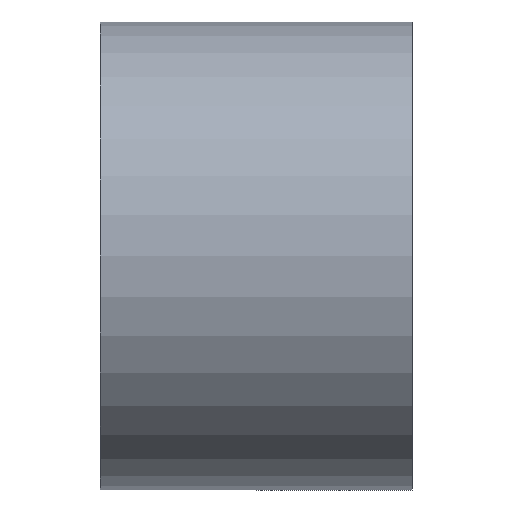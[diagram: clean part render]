
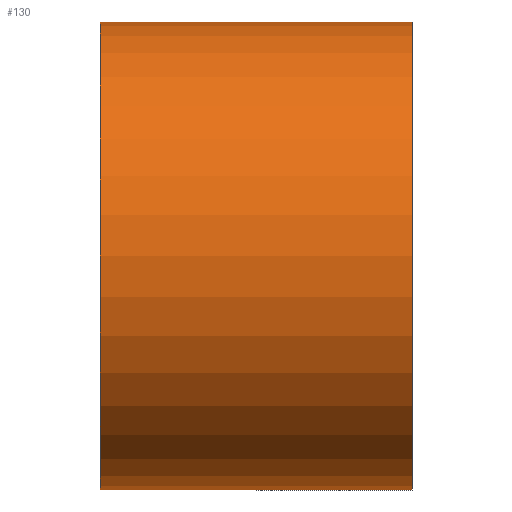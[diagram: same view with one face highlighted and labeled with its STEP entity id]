
A CAD part, front view. The second image highlights one B-rep face of the part: STEP entity #130.
In plain terms, the highlighted cylindrical face has radius 15 mm (diameter 30 mm), a partial arc.
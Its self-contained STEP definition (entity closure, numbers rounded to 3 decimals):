
#7 = AXIS2_PLACEMENT_3D ( 'NONE', #416, #90, #651 ) ;
#12 = CARTESIAN_POINT ( 'NONE',  ( 10., 0., 15. ) ) ;
#17 = VECTOR ( 'NONE', #569, 1000. ) ;
#39 = EDGE_CURVE ( 'NONE', #582, #267, #42, .T. ) ;
#42 = LINE ( 'NONE', #312, #164 ) ;
#67 = CARTESIAN_POINT ( 'NONE',  ( 0., 0., 0. ) ) ;
#90 = DIRECTION ( 'NONE',  ( -1., 0., 0. ) ) ;
#100 = ORIENTED_EDGE ( 'NONE', *, *, #151, .T. ) ;
#130 = ADVANCED_FACE ( 'NONE', ( #499 ), #736, .T. ) ;
#151 = EDGE_CURVE ( 'NONE', #723, #582, #334, .T. ) ;
#157 = CARTESIAN_POINT ( 'NONE',  ( 0., 0., -15. ) ) ;
#160 = LINE ( 'NONE', #157, #17 ) ;
#164 = VECTOR ( 'NONE', #708, 1000. ) ;
#233 = ORIENTED_EDGE ( 'NONE', *, *, #323, .F. ) ;
#254 = CARTESIAN_POINT ( 'NONE',  ( 10., 0., -15. ) ) ;
#267 = VERTEX_POINT ( 'NONE', #643 ) ;
#286 = CIRCLE ( 'NONE', #7, 15. ) ;
#312 = CARTESIAN_POINT ( 'NONE',  ( 0., 0., 15. ) ) ;
#323 = EDGE_CURVE ( 'NONE', #524, #267, #286, .T. ) ;
#334 = CIRCLE ( 'NONE', #538, 15. ) ;
#400 = CARTESIAN_POINT ( 'NONE',  ( -10., 0., -15. ) ) ;
#401 = DIRECTION ( 'NONE',  ( -1., 0., 0. ) ) ;
#416 = CARTESIAN_POINT ( 'NONE',  ( -10., 0., 0. ) ) ;
#423 = EDGE_CURVE ( 'NONE', #723, #524, #160, .T. ) ;
#430 = ORIENTED_EDGE ( 'NONE', *, *, #423, .F. ) ;
#455 = AXIS2_PLACEMENT_3D ( 'NONE', #67, #468, #635 ) ;
#468 = DIRECTION ( 'NONE',  ( -1., 0., 0. ) ) ;
#499 = FACE_OUTER_BOUND ( 'NONE', #731, .T. ) ;
#524 = VERTEX_POINT ( 'NONE', #400 ) ;
#538 = AXIS2_PLACEMENT_3D ( 'NONE', #700, #401, #689 ) ;
#569 = DIRECTION ( 'NONE',  ( -1., 0., 0. ) ) ;
#582 = VERTEX_POINT ( 'NONE', #12 ) ;
#585 = ORIENTED_EDGE ( 'NONE', *, *, #39, .T. ) ;
#635 = DIRECTION ( 'NONE',  ( 0., 0., 1. ) ) ;
#643 = CARTESIAN_POINT ( 'NONE',  ( -10., 0., 15. ) ) ;
#651 = DIRECTION ( 'NONE',  ( 0., 0., 1. ) ) ;
#689 = DIRECTION ( 'NONE',  ( 0., 0., 1. ) ) ;
#700 = CARTESIAN_POINT ( 'NONE',  ( 10., 0., 0. ) ) ;
#708 = DIRECTION ( 'NONE',  ( -1., 0., 0. ) ) ;
#723 = VERTEX_POINT ( 'NONE', #254 ) ;
#731 = EDGE_LOOP ( 'NONE', ( #430, #100, #585, #233 ) ) ;
#736 = CYLINDRICAL_SURFACE ( 'NONE', #455, 15. ) ;
